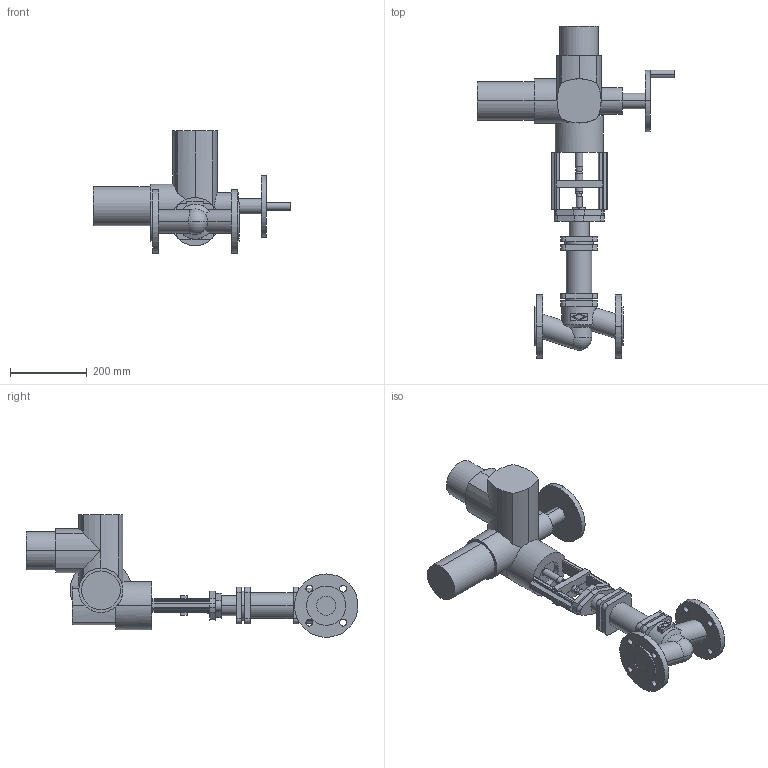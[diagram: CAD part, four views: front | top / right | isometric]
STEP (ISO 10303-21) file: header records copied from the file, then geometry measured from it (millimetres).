
FILE_DESCRIPTION(('OneSpaceDesigner STEP Export'),'2;1');
FILE_NAME('c000003132.stp','2007-01-19T11:25:55',(''),(''),'OneSpace Designer STEP processor for AP214 (Solid Model)','OneSpace Designer 14.00B 27-May-2006 (C) CoCreate Software GmbH','');
FILE_SCHEMA(('AUTOMOTIVE_DESIGN { 1 0 10303 214 1 1 1 1 }'));
Length unit declared in the file: millimetre
Products named in the file (2): 1; 2
Bounding box: 514 x 864.5 x 319.5 mm (x, y, z)
Volume: 11276076.4 mm3; surface area: 704450.7 mm2
Topology: 2 solids, 2 shells, 312 faces, 796 edges, 507 vertices
Faces by surface type: plane 154, cylinder 150, cone 6, sphere 2
Entity records: 10078 total; most frequent: CARTESIAN_POINT 2071, ORIENTED_EDGE 1588, DIRECTION 1385, SURFACE_CURVE 794, EDGE_CURVE 794, VERTEX_POINT 507, AXIS2_PLACEMENT_3D 470, VECTOR 445
